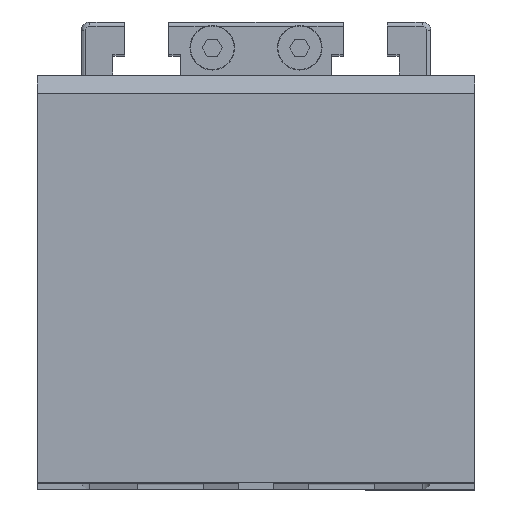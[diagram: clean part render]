
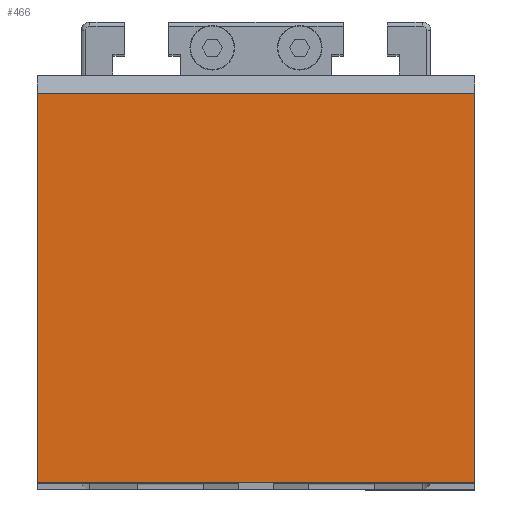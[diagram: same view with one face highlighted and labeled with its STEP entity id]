
A CAD part, top view. The second image highlights one B-rep face of the part: STEP entity #466.
In plain terms, the highlighted planar face has unit normal (0, 0, 1).
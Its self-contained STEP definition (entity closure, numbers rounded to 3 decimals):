
#100 = CARTESIAN_POINT ( 'NONE',  ( 100., 0., 45. ) ) ;
#257 = ORIENTED_EDGE ( 'NONE', *, *, #7382, .T. ) ;
#373 = DIRECTION ( 'NONE',  ( -1., 0., 0. ) ) ;
#466 = ADVANCED_FACE ( 'NONE', ( #2914 ), #2022, .F. ) ;
#607 = ORIENTED_EDGE ( 'NONE', *, *, #7418, .T. ) ;
#930 = VERTEX_POINT ( 'NONE', #7765 ) ;
#1046 = ORIENTED_EDGE ( 'NONE', *, *, #7049, .F. ) ;
#1073 = LINE ( 'NONE', #100, #10422 ) ;
#1502 = CARTESIAN_POINT ( 'NONE',  ( 100., 0., 45. ) ) ;
#1630 = CARTESIAN_POINT ( 'NONE',  ( 100., 46.5, 45. ) ) ;
#2022 = PLANE ( 'NONE',  #7001 ) ;
#2039 = DIRECTION ( 'NONE',  ( 0., 0., -1. ) ) ;
#2058 = CARTESIAN_POINT ( 'NONE',  ( 0., 46.5, 45. ) ) ;
#2068 = DIRECTION ( 'NONE',  ( 0., 1., 0. ) ) ;
#2116 = VECTOR ( 'NONE', #2147, 1000. ) ;
#2147 = DIRECTION ( 'NONE',  ( 0., -1., 0. ) ) ;
#2307 = DIRECTION ( 'NONE',  ( -1., 0., 0. ) ) ;
#2572 = CARTESIAN_POINT ( 'NONE',  ( 100., 46.5, 45. ) ) ;
#2605 = DIRECTION ( 'NONE',  ( 0., -1., 0. ) ) ;
#2914 = FACE_OUTER_BOUND ( 'NONE', #9618, .T. ) ;
#3569 = VERTEX_POINT ( 'NONE', #5468 ) ;
#4412 = VERTEX_POINT ( 'NONE', #1502 ) ;
#4817 = VECTOR ( 'NONE', #2307, 1000. ) ;
#5468 = CARTESIAN_POINT ( 'NONE',  ( 100., 89., 45. ) ) ;
#5929 = CARTESIAN_POINT ( 'NONE',  ( 100., 89., 45. ) ) ;
#6573 = LINE ( 'NONE', #2058, #2116 ) ;
#6870 = VECTOR ( 'NONE', #2605, 1000. ) ;
#7001 = AXIS2_PLACEMENT_3D ( 'NONE', #1630, #2039, #2068 ) ;
#7049 = EDGE_CURVE ( 'NONE', #4412, #7185, #1073, .T. ) ;
#7185 = VERTEX_POINT ( 'NONE', #10379 ) ;
#7301 = LINE ( 'NONE', #5929, #4817 ) ;
#7368 = EDGE_CURVE ( 'NONE', #3569, #4412, #9352, .T. ) ;
#7382 = EDGE_CURVE ( 'NONE', #3569, #930, #7301, .T. ) ;
#7418 = EDGE_CURVE ( 'NONE', #930, #7185, #6573, .T. ) ;
#7765 = CARTESIAN_POINT ( 'NONE',  ( 0., 89., 45. ) ) ;
#9352 = LINE ( 'NONE', #2572, #6870 ) ;
#9618 = EDGE_LOOP ( 'NONE', ( #11601, #257, #607, #1046 ) ) ;
#10379 = CARTESIAN_POINT ( 'NONE',  ( 0., 0., 45. ) ) ;
#10422 = VECTOR ( 'NONE', #373, 1000. ) ;
#11601 = ORIENTED_EDGE ( 'NONE', *, *, #7368, .F. ) ;
